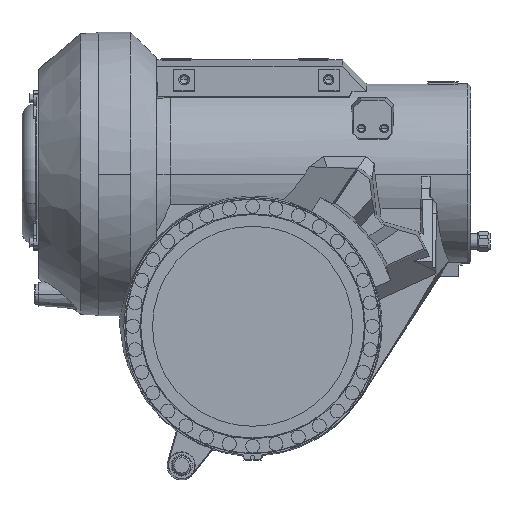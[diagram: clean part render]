
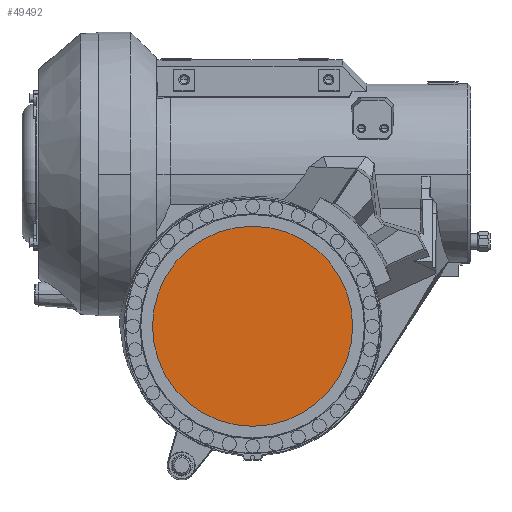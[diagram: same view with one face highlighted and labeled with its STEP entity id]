
A CAD part, front view. The second image highlights one B-rep face of the part: STEP entity #49492.
In plain terms, the highlighted planar face has unit normal (0, -1, 0).
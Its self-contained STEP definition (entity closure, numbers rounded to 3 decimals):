
#23 = EDGE_CURVE ( 'NONE', #74184, #14249, #63041, .T. ) ;
#254 = DIRECTION ( 'NONE',  ( 0., -1., 0. ) ) ;
#1668 = PLANE ( 'NONE',  #14287 ) ;
#3042 = CARTESIAN_POINT ( 'NONE',  ( 821.5, -265., 1740. ) ) ;
#5965 = CARTESIAN_POINT ( 'NONE',  ( 690., -265., 1740. ) ) ;
#6271 = FACE_OUTER_BOUND ( 'NONE', #64469, .T. ) ;
#10359 = AXIS2_PLACEMENT_3D ( 'NONE', #5965, #254, #33389 ) ;
#12845 = EDGE_CURVE ( 'NONE', #14249, #74184, #70480, .T. ) ;
#14249 = VERTEX_POINT ( 'NONE', #3042 ) ;
#14287 = AXIS2_PLACEMENT_3D ( 'NONE', #52528, #23207, #28827 ) ;
#18511 = CARTESIAN_POINT ( 'NONE',  ( 558.5, -265., 1740. ) ) ;
#23207 = DIRECTION ( 'NONE',  ( 0., 1., 0. ) ) ;
#25840 = ORIENTED_EDGE ( 'NONE', *, *, #12845, .T. ) ;
#25935 = CARTESIAN_POINT ( 'NONE',  ( 690., -265., 1740. ) ) ;
#28827 = DIRECTION ( 'NONE',  ( -1., 0., 0. ) ) ;
#29368 = AXIS2_PLACEMENT_3D ( 'NONE', #25935, #60579, #71864 ) ;
#33389 = DIRECTION ( 'NONE',  ( 1., 0., 0. ) ) ;
#41953 = ORIENTED_EDGE ( 'NONE', *, *, #23, .T. ) ;
#49492 = ADVANCED_FACE ( 'NONE', ( #6271 ), #1668, .F. ) ;
#52528 = CARTESIAN_POINT ( 'NONE',  ( 690., -265., 1871. ) ) ;
#60579 = DIRECTION ( 'NONE',  ( 0., -1., 0. ) ) ;
#63041 = CIRCLE ( 'NONE', #29368, 131.5 ) ;
#64469 = EDGE_LOOP ( 'NONE', ( #25840, #41953 ) ) ;
#70480 = CIRCLE ( 'NONE', #10359, 131.5 ) ;
#71864 = DIRECTION ( 'NONE',  ( 1., 0., 0. ) ) ;
#74184 = VERTEX_POINT ( 'NONE', #18511 ) ;
